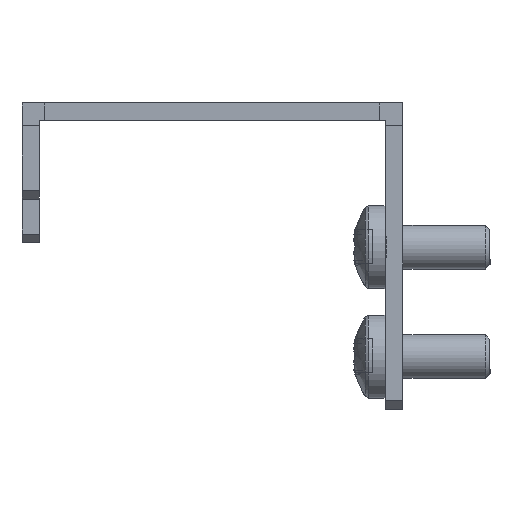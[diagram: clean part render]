
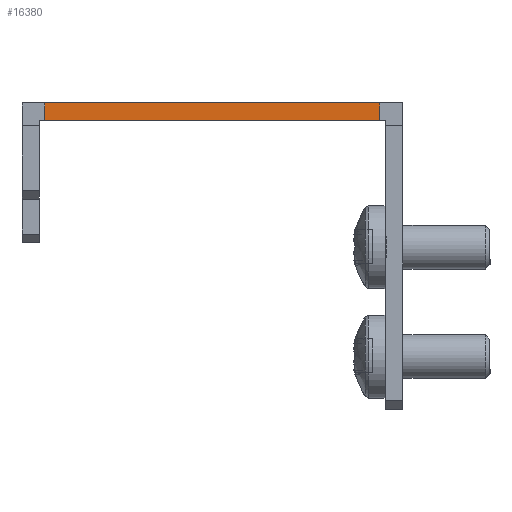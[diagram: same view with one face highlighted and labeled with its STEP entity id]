
A CAD part, left-side view. The second image highlights one B-rep face of the part: STEP entity #16380.
In plain terms, the highlighted planar face has unit normal (-1, 0, 0) as drawn and (1, 0, 0) by its records, which use the part's own axes.
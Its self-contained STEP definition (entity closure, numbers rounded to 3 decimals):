
#11570 = VERTEX_POINT('',#11571);
#11571 = CARTESIAN_POINT('',(481.,19.15,-2.));
#11577 = EDGE_CURVE('',#11578,#11570,#11580,.T.);
#11578 = VERTEX_POINT('',#11579);
#11579 = CARTESIAN_POINT('',(481.,-19.15,-2.));
#11580 = LINE('',#11581,#11582);
#11581 = CARTESIAN_POINT('',(481.,-21.75,-2.));
#11582 = VECTOR('',#11583,1.);
#11583 = DIRECTION('',(0.,1.,0.));
#15980 = VERTEX_POINT('',#15981);
#15981 = CARTESIAN_POINT('',(481.,-19.15,0.));
#15987 = EDGE_CURVE('',#15980,#15988,#15990,.T.);
#15988 = VERTEX_POINT('',#15989);
#15989 = CARTESIAN_POINT('',(481.,19.15,0.));
#15990 = LINE('',#15991,#15992);
#15991 = CARTESIAN_POINT('',(481.,-21.75,0.));
#15992 = VECTOR('',#15993,1.);
#15993 = DIRECTION('',(0.,1.,0.));
#16380 = ADVANCED_FACE('',(#16381),#16397,.T.);
#16381 = FACE_BOUND('',#16382,.T.);
#16382 = EDGE_LOOP('',(#16383,#16389,#16390,#16396));
#16383 = ORIENTED_EDGE('',*,*,#16384,.F.);
#16384 = EDGE_CURVE('',#11578,#15980,#16385,.T.);
#16385 = LINE('',#16386,#16387);
#16386 = CARTESIAN_POINT('',(481.,-19.15,-2.));
#16387 = VECTOR('',#16388,1.);
#16388 = DIRECTION('',(0.,0.,1.));
#16389 = ORIENTED_EDGE('',*,*,#11577,.T.);
#16390 = ORIENTED_EDGE('',*,*,#16391,.T.);
#16391 = EDGE_CURVE('',#11570,#15988,#16392,.T.);
#16392 = LINE('',#16393,#16394);
#16393 = CARTESIAN_POINT('',(481.,19.15,-2.));
#16394 = VECTOR('',#16395,1.);
#16395 = DIRECTION('',(0.,0.,1.));
#16396 = ORIENTED_EDGE('',*,*,#15987,.F.);
#16397 = PLANE('',#16398);
#16398 = AXIS2_PLACEMENT_3D('',#16399,#16400,#16401);
#16399 = CARTESIAN_POINT('',(481.,-21.75,-2.));
#16400 = DIRECTION('',(1.,0.,0.));
#16401 = DIRECTION('',(0.,0.,-1.));
